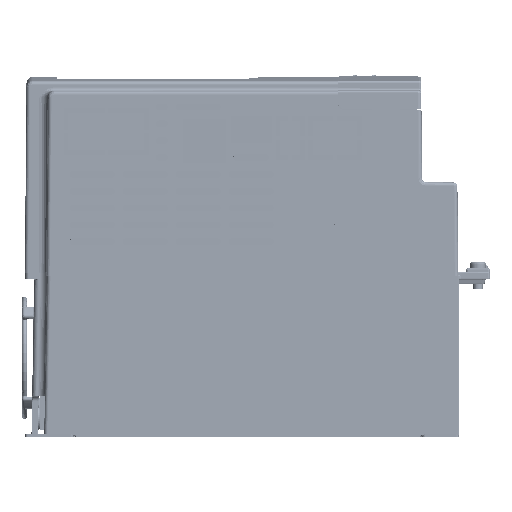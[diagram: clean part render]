
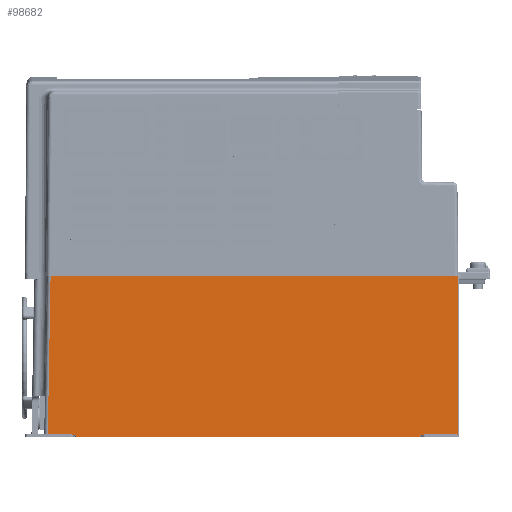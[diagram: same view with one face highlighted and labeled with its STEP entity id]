
A CAD part, left-side view. The second image highlights one B-rep face of the part: STEP entity #98682.
In plain terms, the highlighted planar face has unit normal (-1, 0, 0.018).
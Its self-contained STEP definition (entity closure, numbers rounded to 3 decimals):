
#2362=DIRECTION('',(0.,1.,0.));
#2363=VECTOR('',#2362,169.277);
#2364=CARTESIAN_POINT('',(-52.977,-89.8,-1.697));
#2365=LINE('',#2364,#2363);
#2415=CARTESIAN_POINT('',(-54.122,80.623,-67.3));
#2558=DIRECTION('',(0.,1.,0.));
#2559=VECTOR('',#2558,10.007);
#2560=CARTESIAN_POINT('',(-54.122,70.616,
-67.3));
#2561=LINE('',#2560,#2559);
#2562=DIRECTION('',(0.017,-0.017,1.));
#2563=VECTOR('',#2562,65.623);
#2564=CARTESIAN_POINT('',(-54.122,80.623,
-67.3));
#2565=LINE('',#2564,#2563);
#2566=CARTESIAN_POINT('',(-54.128,-89.376,
-67.597));
#2567=CARTESIAN_POINT('',(-54.126,-89.38,
-67.498));
#2568=CARTESIAN_POINT('',(-54.124,-89.38,
-67.399));
#2569=CARTESIAN_POINT('',(-54.122,-89.384,-67.3));
#2571=DIRECTION('',(0.,1.,0.));
#2572=VECTOR('',#2571,13.768);
#2573=CARTESIAN_POINT('',(-54.122,-89.384,-67.3));
#2574=LINE('',#2573,#2572);
#2575=CARTESIAN_POINT('',(-54.122,-75.616,-67.3));
#2576=CARTESIAN_POINT('',(-54.124,-75.62,
-67.399));
#2577=CARTESIAN_POINT('',(-54.126,-75.62,
-67.498));
#2578=CARTESIAN_POINT('',(-54.128,-75.624,
-67.596));
#2580=CARTESIAN_POINT('',(-54.137,-73.971,
-68.122));
#2581=CARTESIAN_POINT('',(-54.137,-73.967,
-68.155));
#2582=CARTESIAN_POINT('',(-54.138,-73.943,
-68.213));
#2583=CARTESIAN_POINT('',(-54.139,-73.873,
-68.278));
#2584=CARTESIAN_POINT('',(-54.14,-73.809,
-68.297));
#2585=CARTESIAN_POINT('',(-54.14,-73.772,
-68.297));
#2587=CARTESIAN_POINT('',(-54.14,68.772,
-68.297));
#2588=CARTESIAN_POINT('',(-54.14,68.786,
-68.297));
#2589=CARTESIAN_POINT('',(-54.14,68.813,
-68.294));
#2590=CARTESIAN_POINT('',(-54.139,68.852,
-68.281));
#2591=CARTESIAN_POINT('',(-54.139,68.887,
-68.262));
#2592=CARTESIAN_POINT('',(-54.139,68.914,
-68.239));
#2593=CARTESIAN_POINT('',(-54.138,68.935,
-68.215));
#2594=CARTESIAN_POINT('',(-54.138,68.951,
-68.188));
#2595=CARTESIAN_POINT('',(-54.137,68.964,
-68.157));
#2596=CARTESIAN_POINT('',(-54.137,68.969,
-68.134));
#2597=CARTESIAN_POINT('',(-54.137,68.971,
-68.122));
#2598=CARTESIAN_POINT('',(-54.137,68.971,
-68.122));
#2600=CARTESIAN_POINT('',(-54.137,68.971,
-68.122));
#2601=CARTESIAN_POINT('',(-54.135,68.981,
-68.046));
#2602=CARTESIAN_POINT('',(-54.133,69.022,
-67.91));
#2603=CARTESIAN_POINT('',(-54.13,69.157,
-67.748));
#2604=CARTESIAN_POINT('',(-54.128,69.333,
-67.626));
#2605=CARTESIAN_POINT('',(-54.128,69.484,
-67.599));
#2606=CARTESIAN_POINT('',(-54.128,69.566,
-67.596));
#2608=CARTESIAN_POINT('',(-54.128,70.624,
-67.596));
#2609=CARTESIAN_POINT('',(-54.126,70.62,
-67.498));
#2610=CARTESIAN_POINT('',(-54.124,70.62,
-67.399));
#2611=CARTESIAN_POINT('',(-54.122,70.616,
-67.3));
#2613=DIRECTION('',(0.017,0.,1.));
#2614=VECTOR('',#2613,65.91);
#2615=CARTESIAN_POINT('',(-54.128,-89.8,-67.597));
#2616=LINE('',#2615,#2614);
#2648=CARTESIAN_POINT('',(-54.128,-89.376,
-67.597));
#2650=DIRECTION('',(0.,-1.,0.));
#2651=VECTOR('',#2650,0.424);
#2652=CARTESIAN_POINT('',(-54.128,-89.376,
-67.597));
#2653=LINE('',#2652,#2651);
#2697=CARTESIAN_POINT('',(-54.128,-75.624,
-67.596));
#7764=DIRECTION('',(0.,-1.,0.));
#7765=VECTOR('',#7764,1.058);
#7766=CARTESIAN_POINT('',(-54.128,70.624,
-67.596));
#7767=LINE('',#7766,#7765);
#7813=DIRECTION('',(0.,-1.,0.));
#7814=VECTOR('',#7813,142.544);
#7815=CARTESIAN_POINT('',(-54.14,68.772,
-68.297));
#7816=LINE('',#7815,#7814);
#62227=CARTESIAN_POINT('',(-54.137,-73.971,
-68.122));
#62229=CARTESIAN_POINT('',(-54.137,-73.971,
-68.122));
#62230=CARTESIAN_POINT('',(-54.135,-73.983,
-68.045));
#62231=CARTESIAN_POINT('',(-54.133,-74.027,
-67.907));
#62232=CARTESIAN_POINT('',(-54.13,-74.16,
-67.74));
#62233=CARTESIAN_POINT('',(-54.128,-74.342,
-67.626));
#62234=CARTESIAN_POINT('',(-54.128,-74.487,
-67.599));
#62235=CARTESIAN_POINT('',(-54.128,-74.566,
-67.596));
#62246=CARTESIAN_POINT('',(-54.128,-74.566,
-67.596));
#62248=DIRECTION('',(0.,-1.,0.));
#62249=VECTOR('',#62248,1.058);
#62250=CARTESIAN_POINT('',(-54.128,-74.566,
-67.596));
#62251=LINE('',#62250,#62249);
#79107=CARTESIAN_POINT('',(-54.128,-89.8,-67.597));
#79108=VERTEX_POINT('',#79107);
#79109=VERTEX_POINT('',#2697);
#79110=VERTEX_POINT('',#62246);
#79111=VERTEX_POINT('',#2648);
#79113=VERTEX_POINT('',#62227);
#80155=CARTESIAN_POINT('',(-52.977,-89.8,-1.697));
#80156=VERTEX_POINT('',#80155);
#80159=CARTESIAN_POINT('',(-52.977,79.477,
-1.697));
#80160=VERTEX_POINT('',#80159);
#80170=VERTEX_POINT('',#2415);
#80172=CARTESIAN_POINT('',(-54.122,70.616,
-67.3));
#80173=VERTEX_POINT('',#80172);
#80174=VERTEX_POINT('',#2569);
#80175=CARTESIAN_POINT('',(-54.122,-75.616,-67.3));
#80176=VERTEX_POINT('',#80175);
#80177=VERTEX_POINT('',#2585);
#80178=CARTESIAN_POINT('',(-54.14,68.772,
-68.297));
#80179=VERTEX_POINT('',#80178);
#80180=VERTEX_POINT('',#2598);
#80181=VERTEX_POINT('',#2606);
#80182=CARTESIAN_POINT('',(-54.128,70.624,
-67.596));
#80183=VERTEX_POINT('',#80182);
#98647=CARTESIAN_POINT('',(-53.559,-4.586,
-34.997));
#98648=DIRECTION('',(1.,0.,-0.017));
#98649=DIRECTION('',(0.,-1.,0.));
#98650=AXIS2_PLACEMENT_3D('',#98647,#98648,#98649);
#98651=PLANE('',#98650);
#98652=ORIENTED_EDGE('',*,*,#96249,.T.);
#98653=ORIENTED_EDGE('',*,*,#98497,.T.);
#98654=ORIENTED_EDGE('',*,*,#98433,.F.);
#98656=ORIENTED_EDGE('',*,*,#98655,.F.);
#98658=ORIENTED_EDGE('',*,*,#98657,.F.);
#98660=ORIENTED_EDGE('',*,*,#98659,.T.);
#98662=ORIENTED_EDGE('',*,*,#98661,.T.);
#98664=ORIENTED_EDGE('',*,*,#98663,.T.);
#98666=ORIENTED_EDGE('',*,*,#98665,.F.);
#98668=ORIENTED_EDGE('',*,*,#98667,.F.);
#98670=ORIENTED_EDGE('',*,*,#98669,.T.);
#98672=ORIENTED_EDGE('',*,*,#98671,.F.);
#98674=ORIENTED_EDGE('',*,*,#98673,.T.);
#98676=ORIENTED_EDGE('',*,*,#98675,.T.);
#98678=ORIENTED_EDGE('',*,*,#98677,.F.);
#98679=ORIENTED_EDGE('',*,*,#98633,.T.);
#98680=EDGE_LOOP('',(#98652,#98653,#98654,#98656,#98658,#98660,#98662,#98664,
#98666,#98668,#98670,#98672,#98674,#98676,#98678,#98679));
#98681=FACE_OUTER_BOUND('',#98680,.F.);
#2570=B_SPLINE_CURVE_WITH_KNOTS('',3,(#2566,#2567,#2568,#2569),.UNSPECIFIED.,
.F.,.F.,(4,4),(0.,1.),.UNSPECIFIED.);
#2579=B_SPLINE_CURVE_WITH_KNOTS('',3,(#2575,#2576,#2577,#2578),.UNSPECIFIED.,
.F.,.F.,(4,4),(0.,1.),.UNSPECIFIED.);
#2586=B_SPLINE_CURVE_WITH_KNOTS('',3,(#2580,#2581,#2582,#2583,#2584,#2585),
.UNSPECIFIED.,.F.,.F.,(4,1,1,4),(0.,0.333,0.667,1.),
.UNSPECIFIED.);
#2599=B_SPLINE_CURVE_WITH_KNOTS('',3,(#2587,#2588,#2589,#2590,#2591,#2592,#2593,
#2594,#2595,#2596,#2597,#2598),.UNSPECIFIED.,.F.,.F.,(4,1,1,1,1,1,1,1,1,4),
(0.,0.14,0.287,0.423,0.544,
0.652,0.758,0.871,1.,1.),
.UNSPECIFIED.);
#2607=B_SPLINE_CURVE_WITH_KNOTS('',3,(#2600,#2601,#2602,#2603,#2604,#2605,
#2606),.UNSPECIFIED.,.F.,.F.,(4,1,1,1,4),(0.,0.25,0.5,0.75,1.),
.UNSPECIFIED.);
#2612=B_SPLINE_CURVE_WITH_KNOTS('',3,(#2608,#2609,#2610,#2611),.UNSPECIFIED.,
.F.,.F.,(4,4),(0.,1.),.UNSPECIFIED.);
#62236=B_SPLINE_CURVE_WITH_KNOTS('',3,(#62229,#62230,#62231,#62232,#62233,
#62234,#62235),.UNSPECIFIED.,.F.,.F.,(4,1,1,1,4),(0.,0.25,0.5,0.75,
1.),.UNSPECIFIED.);
#96249=EDGE_CURVE('',#80173,#80170,#2561,.T.);
#98433=EDGE_CURVE('',#80156,#80160,#2365,.T.);
#98497=EDGE_CURVE('',#80170,#80160,#2565,.T.);
#98633=EDGE_CURVE('',#80183,#80173,#2612,.T.);
#98655=EDGE_CURVE('',#79108,#80156,#2616,.T.);
#98657=EDGE_CURVE('',#79111,#79108,#2653,.T.);
#98659=EDGE_CURVE('',#79111,#80174,#2570,.T.);
#98661=EDGE_CURVE('',#80174,#80176,#2574,.T.);
#98663=EDGE_CURVE('',#80176,#79109,#2579,.T.);
#98665=EDGE_CURVE('',#79110,#79109,#62251,.T.);
#98667=EDGE_CURVE('',#79113,#79110,#62236,.T.);
#98669=EDGE_CURVE('',#79113,#80177,#2586,.T.);
#98671=EDGE_CURVE('',#80179,#80177,#7816,.T.);
#98673=EDGE_CURVE('',#80179,#80180,#2599,.T.);
#98675=EDGE_CURVE('',#80180,#80181,#2607,.T.);
#98677=EDGE_CURVE('',#80183,#80181,#7767,.T.);
#98682=ADVANCED_FACE('',(#98681),#98651,.F.);
